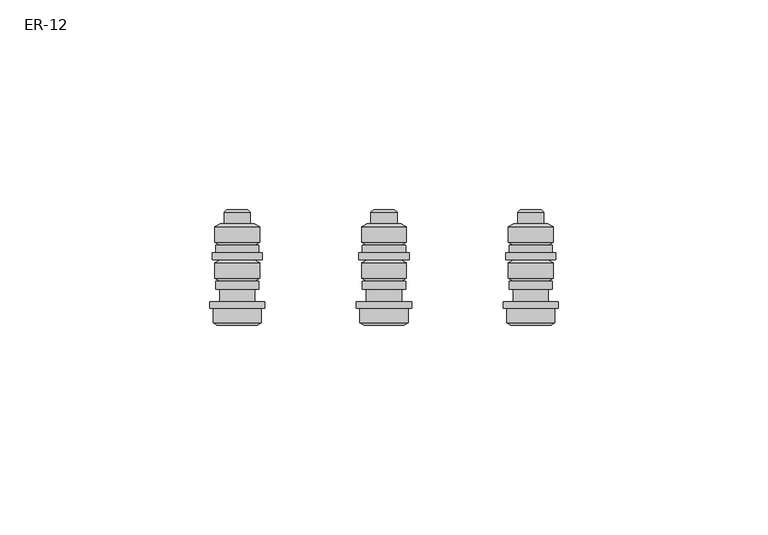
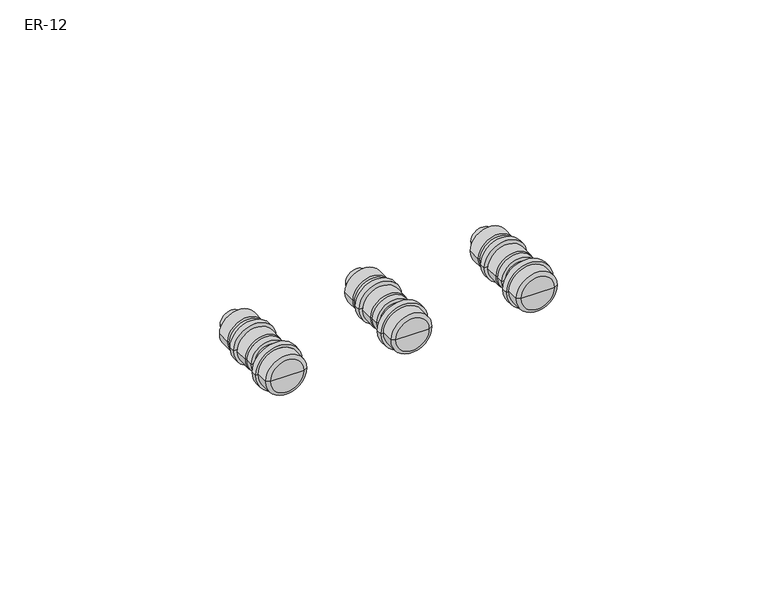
"""IFC4 building model written with IfcOpenShell, lengths in millimetres: proxy geometry, Шина заземления : ER-12."""

from ifc_helpers import new_model, si_unit, frame, origin, place, context, project, spatial, polyline, circle_curve, source, transform, mapped, element, save
from ifc_brep_helpers import plane_surface, cylinder_surface, revolved_surface, advanced_brep


def er_12_4c35d67a(model_context):
    return source(origin(), model_context, "Body", "AdvancedBrep", [
        advanced_brep(
        [(93.2735027, -8.0090804, 12.5), (81.7264973, -8.0090804, 12.5), (81.7264973, -4.6, 12.5), (93.2735027, -4.6, 12.5), (92.25, -8.6, 12.5), (82.75, -8.6, 12.5), (87.5, -8.6, 12.5), (89.9585, 18.9478942, 12.5), (85.0415, 18.9478942, 12.5), (87.5, 18.9478942, 12.5), (90.6171875, 18.3807956, 12.5), (84.3828125, 18.3807956, 12.5), (90.6171875, 15.6237103, 12.5), (84.3828125, 15.6237103, 12.5), (91.55, 15.6237103, 12.5), (83.45, 15.6237103, 12.5), (92.8235027, 14.8884531, 12.5), (82.1764973, 14.8884531, 12.5), (92.8235027, 11.1589674, 12.5), (82.1764973, 11.1589674, 12.5), (91.6901162, 10.4237103, 12.5), (83.3098838, 10.4237103, 12.5), (92.6759762, 10.4237103, 12.5), (82.3240238, 10.4237103, 12.5), (92.6759762, 8.637908, 12.5), (82.3240238, 8.637908, 12.5), (93.5, 8.637908, 12.5), (81.5, 8.637908, 12.5), (93.5, 7.037908, 12.5), (81.5, 7.037908, 12.5), (91.55, 7.037908, 12.5), (83.45, 7.037908, 12.5), (92.8235027, 6.3026509, 12.5), (82.1764973, 6.3026509, 12.5), (92.8235027, 2.5731651, 12.5), (82.1764973, 2.5731651, 12.5), (91.6901162, 1.837908, 12.5), (83.3098838, 1.837908, 12.5), (92.6759762, 1.837908, 12.5), (82.3240238, 1.837908, 12.5), (92.6759762, 0.0, 12.5), (82.3240238, 0.0, 12.5), (91.6901162, 0.0, 12.5), (83.3098838, 0.0, 12.5), (91.6901162, -3.0, 12.5), (83.3098838, -3.0, 12.5), (94.0647814, -3.0, 12.5), (80.9352186, -3.0, 12.5), (94.0647814, -4.6, 12.5), (80.9352186, -4.6, 12.5)],
        [
            (0, 1, circle_curve(frame((87.5, -8.0090804, 12.5), z_axis=(0.0, 1.0, 0.0), x_axis=(-1.0, 0.0, 0.0)), 5.7735027)),
            (1, 2),
            (2, 3, circle_curve(frame((87.5, -4.6, 12.5), z_axis=(0.0, -1.0, 0.0), x_axis=(-1.0, 0.0, 0.0)), 5.7735027)),
            (3, 0),
            (1, 0, circle_curve(frame((87.5, -8.0090804, 12.5), z_axis=(0.0, 1.0, 0.0), x_axis=(-1.0, 0.0, 0.0)), 5.7735027)),
            (3, 2, circle_curve(frame((87.5, -4.6, 12.5), z_axis=(0.0, -1.0, 0.0), x_axis=(-1.0, 0.0, 0.0)), 5.7735027)),
            (4, 5, circle_curve(frame((87.5, -8.6, 12.5), z_axis=(0.0, 1.0, 0.0), x_axis=(-1.0, 0.0, 0.0)), 4.75)),
            (5, 1),
            (0, 4),
            (5, 4, circle_curve(frame((87.5, -8.6, 12.5), z_axis=(0.0, 1.0, 0.0), x_axis=(-1.0, 0.0, 0.0)), 4.75)),
            (6, 5),
            (4, 6),
            (7, 8, circle_curve(frame((87.5, 18.9478942, 12.5), z_axis=(0.0, 1.0, 0.0), x_axis=(-1.0, 0.0, 0.0)), 2.4585)),
            (8, 9),
            (9, 7),
            (8, 7, circle_curve(frame((87.5, 18.9478942, 12.5), z_axis=(0.0, 1.0, 0.0), x_axis=(-1.0, 0.0, 0.0)), 2.4585)),
            (10, 11, circle_curve(frame((87.5, 18.3807956, 12.5), z_axis=(0.0, 1.0, 0.0), x_axis=(-1.0, 0.0, 0.0)), 3.1171875)),
            (11, 8),
            (7, 10),
            (11, 10, circle_curve(frame((87.5, 18.3807956, 12.5), z_axis=(0.0, 1.0, 0.0), x_axis=(-1.0, 0.0, 0.0)), 3.1171875)),
            (12, 13, circle_curve(frame((87.5, 15.6237103, 12.5), z_axis=(0.0, 1.0, 0.0), x_axis=(-1.0, 0.0, 0.0)), 3.1171875)),
            (13, 11),
            (10, 12),
            (13, 12, circle_curve(frame((87.5, 15.6237103, 12.5), z_axis=(0.0, 1.0, 0.0), x_axis=(-1.0, 0.0, 0.0)), 3.1171875)),
            (14, 15, circle_curve(frame((87.5, 15.6237103, 12.5), z_axis=(0.0, 1.0, 0.0), x_axis=(-1.0, 0.0, 0.0)), 4.05)),
            (15, 13),
            (12, 14),
            (15, 14, circle_curve(frame((87.5, 15.6237103, 12.5), z_axis=(0.0, 1.0, 0.0), x_axis=(-1.0, 0.0, 0.0)), 4.05)),
            (16, 17, circle_curve(frame((87.5, 14.8884531, 12.5), z_axis=(0.0, 1.0, 0.0), x_axis=(-1.0, 0.0, 0.0)), 5.3235027)),
            (17, 15),
            (14, 16),
            (17, 16, circle_curve(frame((87.5, 14.8884531, 12.5), z_axis=(0.0, 1.0, 0.0), x_axis=(-1.0, 0.0, 0.0)), 5.3235027)),
            (18, 19, circle_curve(frame((87.5, 11.1589674, 12.5), z_axis=(0.0, 1.0, 0.0), x_axis=(-1.0, 0.0, 0.0)), 5.3235027)),
            (19, 17),
            (16, 18),
            (19, 18, circle_curve(frame((87.5, 11.1589674, 12.5), z_axis=(0.0, 1.0, 0.0), x_axis=(-1.0, 0.0, 0.0)), 5.3235027)),
            (20, 21, circle_curve(frame((87.5, 10.4237103, 12.5), z_axis=(0.0, 1.0, 0.0), x_axis=(-1.0, 0.0, 0.0)), 4.1901162)),
            (21, 19),
            (18, 20),
            (21, 20, circle_curve(frame((87.5, 10.4237103, 12.5), z_axis=(0.0, 1.0, 0.0), x_axis=(-1.0, 0.0, 0.0)), 4.1901162)),
            (22, 23, circle_curve(frame((87.5, 10.4237103, 12.5), z_axis=(0.0, 1.0, 0.0), x_axis=(-1.0, 0.0, 0.0)), 5.1759762)),
            (23, 21),
            (20, 22),
            (23, 22, circle_curve(frame((87.5, 10.4237103, 12.5), z_axis=(0.0, 1.0, 0.0), x_axis=(-1.0, 0.0, 0.0)), 5.1759762)),
            (24, 25, circle_curve(frame((87.5, 8.637908, 12.5), z_axis=(0.0, 1.0, 0.0), x_axis=(-1.0, 0.0, 0.0)), 5.1759762)),
            (25, 23),
            (22, 24),
            (25, 24, circle_curve(frame((87.5, 8.637908, 12.5), z_axis=(0.0, 1.0, 0.0), x_axis=(-1.0, 0.0, 0.0)), 5.1759762)),
            (26, 27, circle_curve(frame((87.5, 8.637908, 12.5), z_axis=(0.0, 1.0, 0.0), x_axis=(-1.0, 0.0, 0.0)), 6.0)),
            (27, 25),
            (24, 26),
            (27, 26, circle_curve(frame((87.5, 8.637908, 12.5), z_axis=(0.0, 1.0, 0.0), x_axis=(-1.0, 0.0, 0.0)), 6.0)),
            (28, 29, circle_curve(frame((87.5, 7.037908, 12.5), z_axis=(0.0, 1.0, 0.0), x_axis=(-1.0, 0.0, 0.0)), 6.0)),
            (29, 27),
            (26, 28),
            (29, 28, circle_curve(frame((87.5, 7.037908, 12.5), z_axis=(0.0, 1.0, 0.0), x_axis=(-1.0, 0.0, 0.0)), 6.0)),
            (30, 31, circle_curve(frame((87.5, 7.037908, 12.5), z_axis=(0.0, 1.0, 0.0), x_axis=(-1.0, 0.0, 0.0)), 4.05)),
            (31, 29),
            (28, 30),
            (31, 30, circle_curve(frame((87.5, 7.037908, 12.5), z_axis=(0.0, 1.0, 0.0), x_axis=(-1.0, 0.0, 0.0)), 4.05)),
            (32, 33, circle_curve(frame((87.5, 6.3026509, 12.5), z_axis=(0.0, 1.0, 0.0), x_axis=(-1.0, 0.0, 0.0)), 5.3235027)),
            (33, 31),
            (30, 32),
            (33, 32, circle_curve(frame((87.5, 6.3026509, 12.5), z_axis=(0.0, 1.0, 0.0), x_axis=(-1.0, 0.0, 0.0)), 5.3235027)),
            (34, 35, circle_curve(frame((87.5, 2.5731651, 12.5), z_axis=(0.0, 1.0, 0.0), x_axis=(-1.0, 0.0, 0.0)), 5.3235027)),
            (35, 33),
            (32, 34),
            (35, 34, circle_curve(frame((87.5, 2.5731651, 12.5), z_axis=(0.0, 1.0, 0.0), x_axis=(-1.0, 0.0, 0.0)), 5.3235027)),
            (36, 37, circle_curve(frame((87.5, 1.837908, 12.5), z_axis=(0.0, 1.0, 0.0), x_axis=(-1.0, 0.0, 0.0)), 4.1901162)),
            (37, 35),
            (34, 36),
            (37, 36, circle_curve(frame((87.5, 1.837908, 12.5), z_axis=(0.0, 1.0, 0.0), x_axis=(-1.0, 0.0, 0.0)), 4.1901162)),
            (38, 39, circle_curve(frame((87.5, 1.837908, 12.5), z_axis=(0.0, 1.0, 0.0), x_axis=(-1.0, 0.0, 0.0)), 5.1759762)),
            (39, 37),
            (36, 38),
            (39, 38, circle_curve(frame((87.5, 1.837908, 12.5), z_axis=(0.0, 1.0, 0.0), x_axis=(-1.0, 0.0, 0.0)), 5.1759762)),
            (40, 41, circle_curve(frame((87.5, 0.0, 12.5), z_axis=(0.0, 1.0, 0.0), x_axis=(-1.0, 0.0, 0.0)), 5.1759762)),
            (41, 39),
            (38, 40),
            (41, 40, circle_curve(frame((87.5, 0.0, 12.5), z_axis=(0.0, 1.0, 0.0), x_axis=(-1.0, 0.0, 0.0)), 5.1759762)),
            (42, 43, circle_curve(frame((87.5, 0.0, 12.5), z_axis=(0.0, 1.0, 0.0), x_axis=(-1.0, 0.0, 0.0)), 4.1901162)),
            (43, 41),
            (40, 42),
            (43, 42, circle_curve(frame((87.5, 0.0, 12.5), z_axis=(0.0, 1.0, 0.0), x_axis=(-1.0, 0.0, 0.0)), 4.1901162)),
            (44, 45, circle_curve(frame((87.5, -3.0, 12.5), z_axis=(0.0, 1.0, 0.0), x_axis=(-1.0, 0.0, 0.0)), 4.1901162)),
            (45, 43),
            (42, 44),
            (45, 44, circle_curve(frame((87.5, -3.0, 12.5), z_axis=(0.0, 1.0, 0.0), x_axis=(-1.0, 0.0, 0.0)), 4.1901162)),
            (46, 47, circle_curve(frame((87.5, -3.0, 12.5), z_axis=(0.0, 1.0, 0.0), x_axis=(-1.0, 0.0, 0.0)), 6.5647814)),
            (47, 45),
            (44, 46),
            (47, 46, circle_curve(frame((87.5, -3.0, 12.5), z_axis=(0.0, 1.0, 0.0), x_axis=(-1.0, 0.0, 0.0)), 6.5647814)),
            (48, 49, circle_curve(frame((87.5, -4.6, 12.5), z_axis=(0.0, 1.0, 0.0), x_axis=(-1.0, 0.0, 0.0)), 6.5647814)),
            (49, 47),
            (46, 48),
            (49, 48, circle_curve(frame((87.5, -4.6, 12.5), z_axis=(0.0, 1.0, 0.0), x_axis=(-1.0, 0.0, 0.0)), 6.5647814)),
            (2, 49),
            (48, 3),
        ],
        [
            cylinder_surface(frame((87.5, 18.9478942, 12.5), z_axis=(0.0, -1.0, 0.0), x_axis=(-1.0, 0.0, 0.0)), 5.7735027),
            revolved_surface(polyline([(81.7264973, -8.0090804, 12.5), (82.75, -8.6, 12.5)]), (87.5, 18.9478942, 12.5), (0.0, -1.0, 0.0)),
            plane_surface(frame((87.5, -8.6, 12.5), z_axis=(0.0, -1.0, 0.0), x_axis=(-1.0, 0.0, 0.0))),
            plane_surface(frame((87.5, 18.9478942, 12.5), z_axis=(0.0, 1.0, 0.0), x_axis=(-1.0, 0.0, 0.0))),
            revolved_surface(polyline([(85.0415, 18.9478942, 12.5), (84.3828125, 18.3807956, 12.5)]), (87.5, 18.9478942, 12.5), (0.0, -1.0, 0.0)),
            cylinder_surface(frame((87.5, 18.9478942, 12.5), z_axis=(0.0, -1.0, 0.0), x_axis=(-1.0, 0.0, 0.0)), 3.1171875),
            plane_surface(frame((87.5, 15.6237103, 12.5), z_axis=(0.0, 1.0, 0.0), x_axis=(-1.0, 0.0, 0.0))),
            revolved_surface(polyline([(83.45, 15.6237103, 12.5), (82.1764973, 14.8884531, 12.5)]), (87.5, 18.9478942, 12.5), (0.0, -1.0, 0.0)),
            cylinder_surface(frame((87.5, 18.9478942, 12.5), z_axis=(0.0, -1.0, 0.0), x_axis=(-1.0, 0.0, 0.0)), 5.3235027),
            revolved_surface(polyline([(82.1764973, 11.1589674, 12.5), (83.3098838, 10.4237103, 12.5)]), (87.5, 18.9478942, 12.5), (0.0, -1.0, 0.0)),
            plane_surface(frame((87.5, 10.4237103, 12.5), z_axis=(0.0, 1.0, 0.0), x_axis=(-1.0, 0.0, 0.0))),
            cylinder_surface(frame((87.5, 18.9478942, 12.5), z_axis=(0.0, -1.0, 0.0), x_axis=(-1.0, 0.0, 0.0)), 5.1759762),
            plane_surface(frame((87.5, 8.637908, 12.5), z_axis=(0.0, 1.0, 0.0), x_axis=(-1.0, 0.0, 0.0))),
            cylinder_surface(frame((87.5, 18.9478942, 12.5), z_axis=(0.0, -1.0, 0.0), x_axis=(-1.0, 0.0, 0.0)), 6.0),
            plane_surface(frame((87.5, 7.037908, 12.5), z_axis=(0.0, -1.0, 0.0), x_axis=(-1.0, 0.0, 0.0))),
            revolved_surface(polyline([(83.45, 7.037908, 12.5), (82.1764973, 6.3026509, 12.5)]), (87.5, 18.9478942, 12.5), (0.0, -1.0, 0.0)),
            revolved_surface(polyline([(82.1764973, 2.5731651, 12.5), (83.3098838, 1.837908, 12.5)]), (87.5, 18.9478942, 12.5), (0.0, -1.0, 0.0)),
            plane_surface(frame((87.5, 1.837908, 12.5), z_axis=(0.0, 1.0, 0.0), x_axis=(-1.0, 0.0, 0.0))),
            plane_surface(frame((87.5, 0.0, 12.5), z_axis=(0.0, -1.0, 0.0), x_axis=(-1.0, 0.0, 0.0))),
            cylinder_surface(frame((87.5, 18.9478942, 12.5), z_axis=(0.0, -1.0, 0.0), x_axis=(-1.0, 0.0, 0.0)), 4.1901162),
            plane_surface(frame((87.5, -3.0, 12.5), z_axis=(0.0, 1.0, 0.0), x_axis=(-1.0, 0.0, 0.0))),
            cylinder_surface(frame((87.5, 18.9478942, 12.5), z_axis=(0.0, -1.0, 0.0), x_axis=(-1.0, 0.0, 0.0)), 6.5647814),
            plane_surface(frame((87.5, -4.6, 12.5), z_axis=(0.0, -1.0, 0.0), x_axis=(-1.0, 0.0, 0.0))),
        ],
        [
            (0, [[1, 2, 3, 4]]),
            (0, [[5, -4, 6, -2]]),
            (1, [[7, 8, -1, 9]]),
            (1, [[10, -9, -5, -8]]),
            (2, [[11, -7, 12]]),
            (2, [[-12, -10, -11]]),
            (3, [[13, 14, 15]]),
            (3, [[16, -15, -14]]),
            (4, [[17, 18, -13, 19]]),
            (4, [[20, -19, -16, -18]]),
            (5, [[21, 22, -17, 23]]),
            (5, [[24, -23, -20, -22]]),
            (6, [[25, 26, -21, 27]]),
            (6, [[28, -27, -24, -26]]),
            (7, [[29, 30, -25, 31]]),
            (7, [[32, -31, -28, -30]]),
            (8, [[33, 34, -29, 35]]),
            (8, [[36, -35, -32, -34]]),
            (9, [[37, 38, -33, 39]]),
            (9, [[40, -39, -36, -38]]),
            (10, [[41, 42, -37, 43]]),
            (10, [[44, -43, -40, -42]]),
            (11, [[45, 46, -41, 47]]),
            (11, [[48, -47, -44, -46]]),
            (12, [[49, 50, -45, 51]]),
            (12, [[52, -51, -48, -50]]),
            (13, [[53, 54, -49, 55]]),
            (13, [[56, -55, -52, -54]]),
            (14, [[57, 58, -53, 59]]),
            (14, [[60, -59, -56, -58]]),
            (15, [[61, 62, -57, 63]]),
            (15, [[64, -63, -60, -62]]),
            (8, [[65, 66, -61, 67]]),
            (8, [[68, -67, -64, -66]]),
            (16, [[69, 70, -65, 71]]),
            (16, [[72, -71, -68, -70]]),
            (17, [[73, 74, -69, 75]]),
            (17, [[76, -75, -72, -74]]),
            (11, [[77, 78, -73, 79]]),
            (11, [[80, -79, -76, -78]]),
            (18, [[81, 82, -77, 83]]),
            (18, [[84, -83, -80, -82]]),
            (19, [[85, 86, -81, 87]]),
            (19, [[88, -87, -84, -86]]),
            (20, [[89, 90, -85, 91]]),
            (20, [[92, -91, -88, -90]]),
            (21, [[93, 94, -89, 95]]),
            (21, [[96, -95, -92, -94]]),
            (22, [[-3, 97, -93, 98]]),
            (22, [[-6, -98, -96, -97]]),
        ],
    ),
        advanced_brep(
        [(58.2735027, -8.0090804, 12.5), (46.7264973, -8.0090804, 12.5), (46.7264973, -4.6, 12.5), (58.2735027, -4.6, 12.5), (57.25, -8.6, 12.5), (47.75, -8.6, 12.5), (52.5, -8.6, 12.5), (54.9585, 18.9478942, 12.5), (50.0415, 18.9478942, 12.5), (52.5, 18.9478942, 12.5), (55.6171875, 18.3807956, 12.5), (49.3828125, 18.3807956, 12.5), (55.6171875, 15.6237103, 12.5), (49.3828125, 15.6237103, 12.5), (56.55, 15.6237103, 12.5), (48.45, 15.6237103, 12.5), (57.8235027, 14.8884531, 12.5), (47.1764973, 14.8884531, 12.5), (57.8235027, 11.1589674, 12.5), (47.1764973, 11.1589674, 12.5), (56.6901162, 10.4237103, 12.5), (48.3098838, 10.4237103, 12.5), (57.6759762, 10.4237103, 12.5), (47.3240238, 10.4237103, 12.5), (57.6759762, 8.637908, 12.5), (47.3240238, 8.637908, 12.5), (58.5, 8.637908, 12.5), (46.5, 8.637908, 12.5), (58.5, 7.037908, 12.5), (46.5, 7.037908, 12.5), (56.55, 7.037908, 12.5), (48.45, 7.037908, 12.5), (57.8235027, 6.3026509, 12.5), (47.1764973, 6.3026509, 12.5), (57.8235027, 2.5731651, 12.5), (47.1764973, 2.5731651, 12.5), (56.6901162, 1.837908, 12.5), (48.3098838, 1.837908, 12.5), (57.6759762, 1.837908, 12.5), (47.3240238, 1.837908, 12.5), (57.6759762, 0.0, 12.5), (47.3240238, 0.0, 12.5), (56.6901162, 0.0, 12.5), (48.3098838, 0.0, 12.5), (56.6901162, -3.0, 12.5), (48.3098838, -3.0, 12.5), (59.0647814, -3.0, 12.5), (45.9352186, -3.0, 12.5), (59.0647814, -4.6, 12.5), (45.9352186, -4.6, 12.5)],
        [
            (0, 1, circle_curve(frame((52.5, -8.0090804, 12.5), z_axis=(0.0, 1.0, 0.0), x_axis=(-1.0, 0.0, 0.0)), 5.7735027)),
            (1, 2),
            (2, 3, circle_curve(frame((52.5, -4.6, 12.5), z_axis=(0.0, -1.0, 0.0), x_axis=(-1.0, 0.0, 0.0)), 5.7735027)),
            (3, 0),
            (1, 0, circle_curve(frame((52.5, -8.0090804, 12.5), z_axis=(0.0, 1.0, 0.0), x_axis=(-1.0, 0.0, 0.0)), 5.7735027)),
            (3, 2, circle_curve(frame((52.5, -4.6, 12.5), z_axis=(0.0, -1.0, 0.0), x_axis=(-1.0, 0.0, 0.0)), 5.7735027)),
            (4, 5, circle_curve(frame((52.5, -8.6, 12.5), z_axis=(0.0, 1.0, 0.0), x_axis=(-1.0, 0.0, 0.0)), 4.75)),
            (5, 1),
            (0, 4),
            (5, 4, circle_curve(frame((52.5, -8.6, 12.5), z_axis=(0.0, 1.0, 0.0), x_axis=(-1.0, 0.0, 0.0)), 4.75)),
            (6, 5),
            (4, 6),
            (7, 8, circle_curve(frame((52.5, 18.9478942, 12.5), z_axis=(0.0, 1.0, 0.0), x_axis=(-1.0, 0.0, 0.0)), 2.4585)),
            (8, 9),
            (9, 7),
            (8, 7, circle_curve(frame((52.5, 18.9478942, 12.5), z_axis=(0.0, 1.0, 0.0), x_axis=(-1.0, 0.0, 0.0)), 2.4585)),
            (10, 11, circle_curve(frame((52.5, 18.3807956, 12.5), z_axis=(0.0, 1.0, 0.0), x_axis=(-1.0, 0.0, 0.0)), 3.1171875)),
            (11, 8),
            (7, 10),
            (11, 10, circle_curve(frame((52.5, 18.3807956, 12.5), z_axis=(0.0, 1.0, 0.0), x_axis=(-1.0, 0.0, 0.0)), 3.1171875)),
            (12, 13, circle_curve(frame((52.5, 15.6237103, 12.5), z_axis=(0.0, 1.0, 0.0), x_axis=(-1.0, 0.0, 0.0)), 3.1171875)),
            (13, 11),
            (10, 12),
            (13, 12, circle_curve(frame((52.5, 15.6237103, 12.5), z_axis=(0.0, 1.0, 0.0), x_axis=(-1.0, 0.0, 0.0)), 3.1171875)),
            (14, 15, circle_curve(frame((52.5, 15.6237103, 12.5), z_axis=(0.0, 1.0, 0.0), x_axis=(-1.0, 0.0, 0.0)), 4.05)),
            (15, 13),
            (12, 14),
            (15, 14, circle_curve(frame((52.5, 15.6237103, 12.5), z_axis=(0.0, 1.0, 0.0), x_axis=(-1.0, 0.0, 0.0)), 4.05)),
            (16, 17, circle_curve(frame((52.5, 14.8884531, 12.5), z_axis=(0.0, 1.0, 0.0), x_axis=(-1.0, 0.0, 0.0)), 5.3235027)),
            (17, 15),
            (14, 16),
            (17, 16, circle_curve(frame((52.5, 14.8884531, 12.5), z_axis=(0.0, 1.0, 0.0), x_axis=(-1.0, 0.0, 0.0)), 5.3235027)),
            (18, 19, circle_curve(frame((52.5, 11.1589674, 12.5), z_axis=(0.0, 1.0, 0.0), x_axis=(-1.0, 0.0, 0.0)), 5.3235027)),
            (19, 17),
            (16, 18),
            (19, 18, circle_curve(frame((52.5, 11.1589674, 12.5), z_axis=(0.0, 1.0, 0.0), x_axis=(-1.0, 0.0, 0.0)), 5.3235027)),
            (20, 21, circle_curve(frame((52.5, 10.4237103, 12.5), z_axis=(0.0, 1.0, 0.0), x_axis=(-1.0, 0.0, 0.0)), 4.1901162)),
            (21, 19),
            (18, 20),
            (21, 20, circle_curve(frame((52.5, 10.4237103, 12.5), z_axis=(0.0, 1.0, 0.0), x_axis=(-1.0, 0.0, 0.0)), 4.1901162)),
            (22, 23, circle_curve(frame((52.5, 10.4237103, 12.5), z_axis=(0.0, 1.0, 0.0), x_axis=(-1.0, 0.0, 0.0)), 5.1759762)),
            (23, 21),
            (20, 22),
            (23, 22, circle_curve(frame((52.5, 10.4237103, 12.5), z_axis=(0.0, 1.0, 0.0), x_axis=(-1.0, 0.0, 0.0)), 5.1759762)),
            (24, 25, circle_curve(frame((52.5, 8.637908, 12.5), z_axis=(0.0, 1.0, 0.0), x_axis=(-1.0, 0.0, 0.0)), 5.1759762)),
            (25, 23),
            (22, 24),
            (25, 24, circle_curve(frame((52.5, 8.637908, 12.5), z_axis=(0.0, 1.0, 0.0), x_axis=(-1.0, 0.0, 0.0)), 5.1759762)),
            (26, 27, circle_curve(frame((52.5, 8.637908, 12.5), z_axis=(0.0, 1.0, 0.0), x_axis=(-1.0, 0.0, 0.0)), 6.0)),
            (27, 25),
            (24, 26),
            (27, 26, circle_curve(frame((52.5, 8.637908, 12.5), z_axis=(0.0, 1.0, 0.0), x_axis=(-1.0, 0.0, 0.0)), 6.0)),
            (28, 29, circle_curve(frame((52.5, 7.037908, 12.5), z_axis=(0.0, 1.0, 0.0), x_axis=(-1.0, 0.0, 0.0)), 6.0)),
            (29, 27),
            (26, 28),
            (29, 28, circle_curve(frame((52.5, 7.037908, 12.5), z_axis=(0.0, 1.0, 0.0), x_axis=(-1.0, 0.0, 0.0)), 6.0)),
            (30, 31, circle_curve(frame((52.5, 7.037908, 12.5), z_axis=(0.0, 1.0, 0.0), x_axis=(-1.0, 0.0, 0.0)), 4.05)),
            (31, 29),
            (28, 30),
            (31, 30, circle_curve(frame((52.5, 7.037908, 12.5), z_axis=(0.0, 1.0, 0.0), x_axis=(-1.0, 0.0, 0.0)), 4.05)),
            (32, 33, circle_curve(frame((52.5, 6.3026509, 12.5), z_axis=(0.0, 1.0, 0.0), x_axis=(-1.0, 0.0, 0.0)), 5.3235027)),
            (33, 31),
            (30, 32),
            (33, 32, circle_curve(frame((52.5, 6.3026509, 12.5), z_axis=(0.0, 1.0, 0.0), x_axis=(-1.0, 0.0, 0.0)), 5.3235027)),
            (34, 35, circle_curve(frame((52.5, 2.5731651, 12.5), z_axis=(0.0, 1.0, 0.0), x_axis=(-1.0, 0.0, 0.0)), 5.3235027)),
            (35, 33),
            (32, 34),
            (35, 34, circle_curve(frame((52.5, 2.5731651, 12.5), z_axis=(0.0, 1.0, 0.0), x_axis=(-1.0, 0.0, 0.0)), 5.3235027)),
            (36, 37, circle_curve(frame((52.5, 1.837908, 12.5), z_axis=(0.0, 1.0, 0.0), x_axis=(-1.0, 0.0, 0.0)), 4.1901162)),
            (37, 35),
            (34, 36),
            (37, 36, circle_curve(frame((52.5, 1.837908, 12.5), z_axis=(0.0, 1.0, 0.0), x_axis=(-1.0, 0.0, 0.0)), 4.1901162)),
            (38, 39, circle_curve(frame((52.5, 1.837908, 12.5), z_axis=(0.0, 1.0, 0.0), x_axis=(-1.0, 0.0, 0.0)), 5.1759762)),
            (39, 37),
            (36, 38),
            (39, 38, circle_curve(frame((52.5, 1.837908, 12.5), z_axis=(0.0, 1.0, 0.0), x_axis=(-1.0, 0.0, 0.0)), 5.1759762)),
            (40, 41, circle_curve(frame((52.5, 0.0, 12.5), z_axis=(0.0, 1.0, 0.0), x_axis=(-1.0, 0.0, 0.0)), 5.1759762)),
            (41, 39),
            (38, 40),
            (41, 40, circle_curve(frame((52.5, 0.0, 12.5), z_axis=(0.0, 1.0, 0.0), x_axis=(-1.0, 0.0, 0.0)), 5.1759762)),
            (42, 43, circle_curve(frame((52.5, 0.0, 12.5), z_axis=(0.0, 1.0, 0.0), x_axis=(-1.0, 0.0, 0.0)), 4.1901162)),
            (43, 41),
            (40, 42),
            (43, 42, circle_curve(frame((52.5, 0.0, 12.5), z_axis=(0.0, 1.0, 0.0), x_axis=(-1.0, 0.0, 0.0)), 4.1901162)),
            (44, 45, circle_curve(frame((52.5, -3.0, 12.5), z_axis=(0.0, 1.0, 0.0), x_axis=(-1.0, 0.0, 0.0)), 4.1901162)),
            (45, 43),
            (42, 44),
            (45, 44, circle_curve(frame((52.5, -3.0, 12.5), z_axis=(0.0, 1.0, 0.0), x_axis=(-1.0, 0.0, 0.0)), 4.1901162)),
            (46, 47, circle_curve(frame((52.5, -3.0, 12.5), z_axis=(0.0, 1.0, 0.0), x_axis=(-1.0, 0.0, 0.0)), 6.5647814)),
            (47, 45),
            (44, 46),
            (47, 46, circle_curve(frame((52.5, -3.0, 12.5), z_axis=(0.0, 1.0, 0.0), x_axis=(-1.0, 0.0, 0.0)), 6.5647814)),
            (48, 49, circle_curve(frame((52.5, -4.6, 12.5), z_axis=(0.0, 1.0, 0.0), x_axis=(-1.0, 0.0, 0.0)), 6.5647814)),
            (49, 47),
            (46, 48),
            (49, 48, circle_curve(frame((52.5, -4.6, 12.5), z_axis=(0.0, 1.0, 0.0), x_axis=(-1.0, 0.0, 0.0)), 6.5647814)),
            (2, 49),
            (48, 3),
        ],
        [
            cylinder_surface(frame((52.5, 18.9478942, 12.5), z_axis=(0.0, -1.0, 0.0), x_axis=(-1.0, 0.0, 0.0)), 5.7735027),
            revolved_surface(polyline([(46.7264973, -8.0090804, 12.5), (47.75, -8.6, 12.5)]), (52.5, 18.9478942, 12.5), (0.0, -1.0, 0.0)),
            plane_surface(frame((52.5, -8.6, 12.5), z_axis=(0.0, -1.0, 0.0), x_axis=(-1.0, 0.0, 0.0))),
            plane_surface(frame((52.5, 18.9478942, 12.5), z_axis=(0.0, 1.0, 0.0), x_axis=(-1.0, 0.0, 0.0))),
            revolved_surface(polyline([(50.0415, 18.9478942, 12.5), (49.3828125, 18.3807956, 12.5)]), (52.5, 18.9478942, 12.5), (0.0, -1.0, 0.0)),
            cylinder_surface(frame((52.5, 18.9478942, 12.5), z_axis=(0.0, -1.0, 0.0), x_axis=(-1.0, 0.0, 0.0)), 3.1171875),
            plane_surface(frame((52.5, 15.6237103, 12.5), z_axis=(0.0, 1.0, 0.0), x_axis=(-1.0, 0.0, 0.0))),
            revolved_surface(polyline([(48.45, 15.6237103, 12.5), (47.1764973, 14.8884531, 12.5)]), (52.5, 18.9478942, 12.5), (0.0, -1.0, 0.0)),
            cylinder_surface(frame((52.5, 18.9478942, 12.5), z_axis=(0.0, -1.0, 0.0), x_axis=(-1.0, 0.0, 0.0)), 5.3235027),
            revolved_surface(polyline([(47.1764973, 11.1589674, 12.5), (48.3098838, 10.4237103, 12.5)]), (52.5, 18.9478942, 12.5), (0.0, -1.0, 0.0)),
            plane_surface(frame((52.5, 10.4237103, 12.5), z_axis=(0.0, 1.0, 0.0), x_axis=(-1.0, 0.0, 0.0))),
            cylinder_surface(frame((52.5, 18.9478942, 12.5), z_axis=(0.0, -1.0, 0.0), x_axis=(-1.0, 0.0, 0.0)), 5.1759762),
            plane_surface(frame((52.5, 8.637908, 12.5), z_axis=(0.0, 1.0, 0.0), x_axis=(-1.0, 0.0, 0.0))),
            cylinder_surface(frame((52.5, 18.9478942, 12.5), z_axis=(0.0, -1.0, 0.0), x_axis=(-1.0, 0.0, 0.0)), 6.0),
            plane_surface(frame((52.5, 7.037908, 12.5), z_axis=(0.0, -1.0, 0.0), x_axis=(-1.0, 0.0, 0.0))),
            revolved_surface(polyline([(48.45, 7.037908, 12.5), (47.1764973, 6.3026509, 12.5)]), (52.5, 18.9478942, 12.5), (0.0, -1.0, 0.0)),
            revolved_surface(polyline([(47.1764973, 2.5731651, 12.5), (48.3098838, 1.837908, 12.5)]), (52.5, 18.9478942, 12.5), (0.0, -1.0, 0.0)),
            plane_surface(frame((52.5, 1.837908, 12.5), z_axis=(0.0, 1.0, 0.0), x_axis=(-1.0, 0.0, 0.0))),
            plane_surface(frame((52.5, 0.0, 12.5), z_axis=(0.0, -1.0, 0.0), x_axis=(-1.0, 0.0, 0.0))),
            cylinder_surface(frame((52.5, 18.9478942, 12.5), z_axis=(0.0, -1.0, 0.0), x_axis=(-1.0, 0.0, 0.0)), 4.1901162),
            plane_surface(frame((52.5, -3.0, 12.5), z_axis=(0.0, 1.0, 0.0), x_axis=(-1.0, 0.0, 0.0))),
            cylinder_surface(frame((52.5, 18.9478942, 12.5), z_axis=(0.0, -1.0, 0.0), x_axis=(-1.0, 0.0, 0.0)), 6.5647814),
            plane_surface(frame((52.5, -4.6, 12.5), z_axis=(0.0, -1.0, 0.0), x_axis=(-1.0, 0.0, 0.0))),
        ],
        [
            (0, [[1, 2, 3, 4]]),
            (0, [[5, -4, 6, -2]]),
            (1, [[7, 8, -1, 9]]),
            (1, [[10, -9, -5, -8]]),
            (2, [[11, -7, 12]]),
            (2, [[-12, -10, -11]]),
            (3, [[13, 14, 15]]),
            (3, [[16, -15, -14]]),
            (4, [[17, 18, -13, 19]]),
            (4, [[20, -19, -16, -18]]),
            (5, [[21, 22, -17, 23]]),
            (5, [[24, -23, -20, -22]]),
            (6, [[25, 26, -21, 27]]),
            (6, [[28, -27, -24, -26]]),
            (7, [[29, 30, -25, 31]]),
            (7, [[32, -31, -28, -30]]),
            (8, [[33, 34, -29, 35]]),
            (8, [[36, -35, -32, -34]]),
            (9, [[37, 38, -33, 39]]),
            (9, [[40, -39, -36, -38]]),
            (10, [[41, 42, -37, 43]]),
            (10, [[44, -43, -40, -42]]),
            (11, [[45, 46, -41, 47]]),
            (11, [[48, -47, -44, -46]]),
            (12, [[49, 50, -45, 51]]),
            (12, [[52, -51, -48, -50]]),
            (13, [[53, 54, -49, 55]]),
            (13, [[56, -55, -52, -54]]),
            (14, [[57, 58, -53, 59]]),
            (14, [[60, -59, -56, -58]]),
            (15, [[61, 62, -57, 63]]),
            (15, [[64, -63, -60, -62]]),
            (8, [[65, 66, -61, 67]]),
            (8, [[68, -67, -64, -66]]),
            (16, [[69, 70, -65, 71]]),
            (16, [[72, -71, -68, -70]]),
            (17, [[73, 74, -69, 75]]),
            (17, [[76, -75, -72, -74]]),
            (11, [[77, 78, -73, 79]]),
            (11, [[80, -79, -76, -78]]),
            (18, [[81, 82, -77, 83]]),
            (18, [[84, -83, -80, -82]]),
            (19, [[85, 86, -81, 87]]),
            (19, [[88, -87, -84, -86]]),
            (20, [[89, 90, -85, 91]]),
            (20, [[92, -91, -88, -90]]),
            (21, [[93, 94, -89, 95]]),
            (21, [[96, -95, -92, -94]]),
            (22, [[-3, 97, -93, 98]]),
            (22, [[-6, -98, -96, -97]]),
        ],
    ),
        advanced_brep(
        [(23.2735027, -8.0090804, 12.5), (11.7264973, -8.0090804, 12.5), (11.7264973, -4.6, 12.5), (23.2735027, -4.6, 12.5), (22.25, -8.6, 12.5), (12.75, -8.6, 12.5), (17.5, -8.6, 12.5), (19.9585, 18.9478942, 12.5), (15.0415, 18.9478942, 12.5), (17.5, 18.9478942, 12.5), (20.6171875, 18.3807956, 12.5), (14.3828125, 18.3807956, 12.5), (20.6171875, 15.6237103, 12.5), (14.3828125, 15.6237103, 12.5), (21.55, 15.6237103, 12.5), (13.45, 15.6237103, 12.5), (22.8235027, 14.8884531, 12.5), (12.1764973, 14.8884531, 12.5), (22.8235027, 11.1589674, 12.5), (12.1764973, 11.1589674, 12.5), (21.6901162, 10.4237103, 12.5), (13.3098838, 10.4237103, 12.5), (22.6759762, 10.4237103, 12.5), (12.3240238, 10.4237103, 12.5), (22.6759762, 8.637908, 12.5), (12.3240238, 8.637908, 12.5), (23.5, 8.637908, 12.5), (11.5, 8.637908, 12.5), (23.5, 7.037908, 12.5), (11.5, 7.037908, 12.5), (21.55, 7.037908, 12.5), (13.45, 7.037908, 12.5), (22.8235027, 6.3026509, 12.5), (12.1764973, 6.3026509, 12.5), (22.8235027, 2.5731651, 12.5), (12.1764973, 2.5731651, 12.5), (21.6901162, 1.837908, 12.5), (13.3098838, 1.837908, 12.5), (22.6759762, 1.837908, 12.5), (12.3240238, 1.837908, 12.5), (22.6759762, 0.0, 12.5), (12.3240238, 0.0, 12.5), (21.6901162, 0.0, 12.5), (13.3098838, 0.0, 12.5), (21.6901162, -3.0, 12.5), (13.3098838, -3.0, 12.5), (24.0647814, -3.0, 12.5), (10.9352186, -3.0, 12.5), (24.0647814, -4.6, 12.5), (10.9352186, -4.6, 12.5)],
        [
            (0, 1, circle_curve(frame((17.5, -8.0090804, 12.5), z_axis=(0.0, 1.0, 0.0), x_axis=(-1.0, 0.0, 0.0)), 5.7735027)),
            (1, 2),
            (2, 3, circle_curve(frame((17.5, -4.6, 12.5), z_axis=(0.0, -1.0, 0.0), x_axis=(-1.0, 0.0, 0.0)), 5.7735027)),
            (3, 0),
            (1, 0, circle_curve(frame((17.5, -8.0090804, 12.5), z_axis=(0.0, 1.0, 0.0), x_axis=(-1.0, 0.0, 0.0)), 5.7735027)),
            (3, 2, circle_curve(frame((17.5, -4.6, 12.5), z_axis=(0.0, -1.0, 0.0), x_axis=(-1.0, 0.0, 0.0)), 5.7735027)),
            (4, 5, circle_curve(frame((17.5, -8.6, 12.5), z_axis=(0.0, 1.0, 0.0), x_axis=(-1.0, 0.0, 0.0)), 4.75)),
            (5, 1),
            (0, 4),
            (5, 4, circle_curve(frame((17.5, -8.6, 12.5), z_axis=(0.0, 1.0, 0.0), x_axis=(-1.0, 0.0, 0.0)), 4.75)),
            (6, 5),
            (4, 6),
            (7, 8, circle_curve(frame((17.5, 18.9478942, 12.5), z_axis=(0.0, 1.0, 0.0), x_axis=(-1.0, 0.0, 0.0)), 2.4585)),
            (8, 9),
            (9, 7),
            (8, 7, circle_curve(frame((17.5, 18.9478942, 12.5), z_axis=(0.0, 1.0, 0.0), x_axis=(-1.0, 0.0, 0.0)), 2.4585)),
            (10, 11, circle_curve(frame((17.5, 18.3807956, 12.5), z_axis=(0.0, 1.0, 0.0), x_axis=(-1.0, 0.0, 0.0)), 3.1171875)),
            (11, 8),
            (7, 10),
            (11, 10, circle_curve(frame((17.5, 18.3807956, 12.5), z_axis=(0.0, 1.0, 0.0), x_axis=(-1.0, 0.0, 0.0)), 3.1171875)),
            (12, 13, circle_curve(frame((17.5, 15.6237103, 12.5), z_axis=(0.0, 1.0, 0.0), x_axis=(-1.0, 0.0, 0.0)), 3.1171875)),
            (13, 11),
            (10, 12),
            (13, 12, circle_curve(frame((17.5, 15.6237103, 12.5), z_axis=(0.0, 1.0, 0.0), x_axis=(-1.0, 0.0, 0.0)), 3.1171875)),
            (14, 15, circle_curve(frame((17.5, 15.6237103, 12.5), z_axis=(0.0, 1.0, 0.0), x_axis=(-1.0, 0.0, 0.0)), 4.05)),
            (15, 13),
            (12, 14),
            (15, 14, circle_curve(frame((17.5, 15.6237103, 12.5), z_axis=(0.0, 1.0, 0.0), x_axis=(-1.0, 0.0, 0.0)), 4.05)),
            (16, 17, circle_curve(frame((17.5, 14.8884531, 12.5), z_axis=(0.0, 1.0, 0.0), x_axis=(-1.0, 0.0, 0.0)), 5.3235027)),
            (17, 15),
            (14, 16),
            (17, 16, circle_curve(frame((17.5, 14.8884531, 12.5), z_axis=(0.0, 1.0, 0.0), x_axis=(-1.0, 0.0, 0.0)), 5.3235027)),
            (18, 19, circle_curve(frame((17.5, 11.1589674, 12.5), z_axis=(0.0, 1.0, 0.0), x_axis=(-1.0, 0.0, 0.0)), 5.3235027)),
            (19, 17),
            (16, 18),
            (19, 18, circle_curve(frame((17.5, 11.1589674, 12.5), z_axis=(0.0, 1.0, 0.0), x_axis=(-1.0, 0.0, 0.0)), 5.3235027)),
            (20, 21, circle_curve(frame((17.5, 10.4237103, 12.5), z_axis=(0.0, 1.0, 0.0), x_axis=(-1.0, 0.0, 0.0)), 4.1901162)),
            (21, 19),
            (18, 20),
            (21, 20, circle_curve(frame((17.5, 10.4237103, 12.5), z_axis=(0.0, 1.0, 0.0), x_axis=(-1.0, 0.0, 0.0)), 4.1901162)),
            (22, 23, circle_curve(frame((17.5, 10.4237103, 12.5), z_axis=(0.0, 1.0, 0.0), x_axis=(-1.0, 0.0, 0.0)), 5.1759762)),
            (23, 21),
            (20, 22),
            (23, 22, circle_curve(frame((17.5, 10.4237103, 12.5), z_axis=(0.0, 1.0, 0.0), x_axis=(-1.0, 0.0, 0.0)), 5.1759762)),
            (24, 25, circle_curve(frame((17.5, 8.637908, 12.5), z_axis=(0.0, 1.0, 0.0), x_axis=(-1.0, 0.0, 0.0)), 5.1759762)),
            (25, 23),
            (22, 24),
            (25, 24, circle_curve(frame((17.5, 8.637908, 12.5), z_axis=(0.0, 1.0, 0.0), x_axis=(-1.0, 0.0, 0.0)), 5.1759762)),
            (26, 27, circle_curve(frame((17.5, 8.637908, 12.5), z_axis=(0.0, 1.0, 0.0), x_axis=(-1.0, 0.0, 0.0)), 6.0)),
            (27, 25),
            (24, 26),
            (27, 26, circle_curve(frame((17.5, 8.637908, 12.5), z_axis=(0.0, 1.0, 0.0), x_axis=(-1.0, 0.0, 0.0)), 6.0)),
            (28, 29, circle_curve(frame((17.5, 7.037908, 12.5), z_axis=(0.0, 1.0, 0.0), x_axis=(-1.0, 0.0, 0.0)), 6.0)),
            (29, 27),
            (26, 28),
            (29, 28, circle_curve(frame((17.5, 7.037908, 12.5), z_axis=(0.0, 1.0, 0.0), x_axis=(-1.0, 0.0, 0.0)), 6.0)),
            (30, 31, circle_curve(frame((17.5, 7.037908, 12.5), z_axis=(0.0, 1.0, 0.0), x_axis=(-1.0, 0.0, 0.0)), 4.05)),
            (31, 29),
            (28, 30),
            (31, 30, circle_curve(frame((17.5, 7.037908, 12.5), z_axis=(0.0, 1.0, 0.0), x_axis=(-1.0, 0.0, 0.0)), 4.05)),
            (32, 33, circle_curve(frame((17.5, 6.3026509, 12.5), z_axis=(0.0, 1.0, 0.0), x_axis=(-1.0, 0.0, 0.0)), 5.3235027)),
            (33, 31),
            (30, 32),
            (33, 32, circle_curve(frame((17.5, 6.3026509, 12.5), z_axis=(0.0, 1.0, 0.0), x_axis=(-1.0, 0.0, 0.0)), 5.3235027)),
            (34, 35, circle_curve(frame((17.5, 2.5731651, 12.5), z_axis=(0.0, 1.0, 0.0), x_axis=(-1.0, 0.0, 0.0)), 5.3235027)),
            (35, 33),
            (32, 34),
            (35, 34, circle_curve(frame((17.5, 2.5731651, 12.5), z_axis=(0.0, 1.0, 0.0), x_axis=(-1.0, 0.0, 0.0)), 5.3235027)),
            (36, 37, circle_curve(frame((17.5, 1.837908, 12.5), z_axis=(0.0, 1.0, 0.0), x_axis=(-1.0, 0.0, 0.0)), 4.1901162)),
            (37, 35),
            (34, 36),
            (37, 36, circle_curve(frame((17.5, 1.837908, 12.5), z_axis=(0.0, 1.0, 0.0), x_axis=(-1.0, 0.0, 0.0)), 4.1901162)),
            (38, 39, circle_curve(frame((17.5, 1.837908, 12.5), z_axis=(0.0, 1.0, 0.0), x_axis=(-1.0, 0.0, 0.0)), 5.1759762)),
            (39, 37),
            (36, 38),
            (39, 38, circle_curve(frame((17.5, 1.837908, 12.5), z_axis=(0.0, 1.0, 0.0), x_axis=(-1.0, 0.0, 0.0)), 5.1759762)),
            (40, 41, circle_curve(frame((17.5, 0.0, 12.5), z_axis=(0.0, 1.0, 0.0), x_axis=(-1.0, 0.0, 0.0)), 5.1759762)),
            (41, 39),
            (38, 40),
            (41, 40, circle_curve(frame((17.5, 0.0, 12.5), z_axis=(0.0, 1.0, 0.0), x_axis=(-1.0, 0.0, 0.0)), 5.1759762)),
            (42, 43, circle_curve(frame((17.5, 0.0, 12.5), z_axis=(0.0, 1.0, 0.0), x_axis=(-1.0, 0.0, 0.0)), 4.1901162)),
            (43, 41),
            (40, 42),
            (43, 42, circle_curve(frame((17.5, 0.0, 12.5), z_axis=(0.0, 1.0, 0.0), x_axis=(-1.0, 0.0, 0.0)), 4.1901162)),
            (44, 45, circle_curve(frame((17.5, -3.0, 12.5), z_axis=(0.0, 1.0, 0.0), x_axis=(-1.0, 0.0, 0.0)), 4.1901162)),
            (45, 43),
            (42, 44),
            (45, 44, circle_curve(frame((17.5, -3.0, 12.5), z_axis=(0.0, 1.0, 0.0), x_axis=(-1.0, 0.0, 0.0)), 4.1901162)),
            (46, 47, circle_curve(frame((17.5, -3.0, 12.5), z_axis=(0.0, 1.0, 0.0), x_axis=(-1.0, 0.0, 0.0)), 6.5647814)),
            (47, 45),
            (44, 46),
            (47, 46, circle_curve(frame((17.5, -3.0, 12.5), z_axis=(0.0, 1.0, 0.0), x_axis=(-1.0, 0.0, 0.0)), 6.5647814)),
            (48, 49, circle_curve(frame((17.5, -4.6, 12.5), z_axis=(0.0, 1.0, 0.0), x_axis=(-1.0, 0.0, 0.0)), 6.5647814)),
            (49, 47),
            (46, 48),
            (49, 48, circle_curve(frame((17.5, -4.6, 12.5), z_axis=(0.0, 1.0, 0.0), x_axis=(-1.0, 0.0, 0.0)), 6.5647814)),
            (2, 49),
            (48, 3),
        ],
        [
            cylinder_surface(frame((17.5, 18.9478942, 12.5), z_axis=(0.0, -1.0, 0.0), x_axis=(-1.0, 0.0, 0.0)), 5.7735027),
            revolved_surface(polyline([(11.7264973, -8.0090804, 12.5), (12.75, -8.6, 12.5)]), (17.5, 18.9478942, 12.5), (0.0, -1.0, 0.0)),
            plane_surface(frame((17.5, -8.6, 12.5), z_axis=(0.0, -1.0, 0.0), x_axis=(-1.0, 0.0, 0.0))),
            plane_surface(frame((17.5, 18.9478942, 12.5), z_axis=(0.0, 1.0, 0.0), x_axis=(-1.0, 0.0, 0.0))),
            revolved_surface(polyline([(15.0415, 18.9478942, 12.5), (14.3828125, 18.3807956, 12.5)]), (17.5, 18.9478942, 12.5), (0.0, -1.0, 0.0)),
            cylinder_surface(frame((17.5, 18.9478942, 12.5), z_axis=(0.0, -1.0, 0.0), x_axis=(-1.0, 0.0, 0.0)), 3.1171875),
            plane_surface(frame((17.5, 15.6237103, 12.5), z_axis=(0.0, 1.0, 0.0), x_axis=(-1.0, 0.0, 0.0))),
            revolved_surface(polyline([(13.45, 15.6237103, 12.5), (12.1764973, 14.8884531, 12.5)]), (17.5, 18.9478942, 12.5), (0.0, -1.0, 0.0)),
            cylinder_surface(frame((17.5, 18.9478942, 12.5), z_axis=(0.0, -1.0, 0.0), x_axis=(-1.0, 0.0, 0.0)), 5.3235027),
            revolved_surface(polyline([(12.1764973, 11.1589674, 12.5), (13.3098838, 10.4237103, 12.5)]), (17.5, 18.9478942, 12.5), (0.0, -1.0, 0.0)),
            plane_surface(frame((17.5, 10.4237103, 12.5), z_axis=(0.0, 1.0, 0.0), x_axis=(-1.0, 0.0, 0.0))),
            cylinder_surface(frame((17.5, 18.9478942, 12.5), z_axis=(0.0, -1.0, 0.0), x_axis=(-1.0, 0.0, 0.0)), 5.1759762),
            plane_surface(frame((17.5, 8.637908, 12.5), z_axis=(0.0, 1.0, 0.0), x_axis=(-1.0, 0.0, 0.0))),
            cylinder_surface(frame((17.5, 18.9478942, 12.5), z_axis=(0.0, -1.0, 0.0), x_axis=(-1.0, 0.0, 0.0)), 6.0),
            plane_surface(frame((17.5, 7.037908, 12.5), z_axis=(0.0, -1.0, 0.0), x_axis=(-1.0, 0.0, 0.0))),
            revolved_surface(polyline([(13.45, 7.037908, 12.5), (12.1764973, 6.3026509, 12.5)]), (17.5, 18.9478942, 12.5), (0.0, -1.0, 0.0)),
            revolved_surface(polyline([(12.1764973, 2.5731651, 12.5), (13.3098838, 1.837908, 12.5)]), (17.5, 18.9478942, 12.5), (0.0, -1.0, 0.0)),
            plane_surface(frame((17.5, 1.837908, 12.5), z_axis=(0.0, 1.0, 0.0), x_axis=(-1.0, 0.0, 0.0))),
            plane_surface(frame((17.5, 0.0, 12.5), z_axis=(0.0, -1.0, 0.0), x_axis=(-1.0, 0.0, 0.0))),
            cylinder_surface(frame((17.5, 18.9478942, 12.5), z_axis=(0.0, -1.0, 0.0), x_axis=(-1.0, 0.0, 0.0)), 4.1901162),
            plane_surface(frame((17.5, -3.0, 12.5), z_axis=(0.0, 1.0, 0.0), x_axis=(-1.0, 0.0, 0.0))),
            cylinder_surface(frame((17.5, 18.9478942, 12.5), z_axis=(0.0, -1.0, 0.0), x_axis=(-1.0, 0.0, 0.0)), 6.5647814),
            plane_surface(frame((17.5, -4.6, 12.5), z_axis=(0.0, -1.0, 0.0), x_axis=(-1.0, 0.0, 0.0))),
        ],
        [
            (0, [[1, 2, 3, 4]]),
            (0, [[5, -4, 6, -2]]),
            (1, [[7, 8, -1, 9]]),
            (1, [[10, -9, -5, -8]]),
            (2, [[11, -7, 12]]),
            (2, [[-12, -10, -11]]),
            (3, [[13, 14, 15]]),
            (3, [[16, -15, -14]]),
            (4, [[17, 18, -13, 19]]),
            (4, [[20, -19, -16, -18]]),
            (5, [[21, 22, -17, 23]]),
            (5, [[24, -23, -20, -22]]),
            (6, [[25, 26, -21, 27]]),
            (6, [[28, -27, -24, -26]]),
            (7, [[29, 30, -25, 31]]),
            (7, [[32, -31, -28, -30]]),
            (8, [[33, 34, -29, 35]]),
            (8, [[36, -35, -32, -34]]),
            (9, [[37, 38, -33, 39]]),
            (9, [[40, -39, -36, -38]]),
            (10, [[41, 42, -37, 43]]),
            (10, [[44, -43, -40, -42]]),
            (11, [[45, 46, -41, 47]]),
            (11, [[48, -47, -44, -46]]),
            (12, [[49, 50, -45, 51]]),
            (12, [[52, -51, -48, -50]]),
            (13, [[53, 54, -49, 55]]),
            (13, [[56, -55, -52, -54]]),
            (14, [[57, 58, -53, 59]]),
            (14, [[60, -59, -56, -58]]),
            (15, [[61, 62, -57, 63]]),
            (15, [[64, -63, -60, -62]]),
            (8, [[65, 66, -61, 67]]),
            (8, [[68, -67, -64, -66]]),
            (16, [[69, 70, -65, 71]]),
            (16, [[72, -71, -68, -70]]),
            (17, [[73, 74, -69, 75]]),
            (17, [[76, -75, -72, -74]]),
            (11, [[77, 78, -73, 79]]),
            (11, [[80, -79, -76, -78]]),
            (18, [[81, 82, -77, 83]]),
            (18, [[84, -83, -80, -82]]),
            (19, [[85, 86, -81, 87]]),
            (19, [[88, -87, -84, -86]]),
            (20, [[89, 90, -85, 91]]),
            (20, [[92, -91, -88, -90]]),
            (21, [[93, 94, -89, 95]]),
            (21, [[96, -95, -92, -94]]),
            (22, [[-3, 97, -93, 98]]),
            (22, [[-6, -98, -96, -97]]),
        ],
    ),
    ])


if __name__ == "__main__":
    model = new_model("IFC4")
    model_context = context("Model", 3, world=origin())
    ifc_project = project(units=[si_unit("LENGTHUNIT", "METRE", prefix="MILLI")], contexts=[model_context])
    site = spatial("IfcSite", under=ifc_project)
    building = spatial("IfcBuilding", under=site)
    placement = place(None, origin())
    er_12_shape = er_12_4c35d67a(model_context)
    element("IfcBuildingElementProxy", 1, Name="Шина заземления : ER-12", ObjectType="Шина заземления : ER-12", at=placement, inside=building, context=model_context, shape_type="MappedRepresentation", body=[
        mapped(er_12_shape, transform((0.0, 0.0, 0.0), x_axis=(1.0, 0.0, 0.0), y_axis=(0.0, 1.0, 0.0), z_axis=(0.0, 0.0, 1.0))),
    ])
    save(model, "model.ifc")
